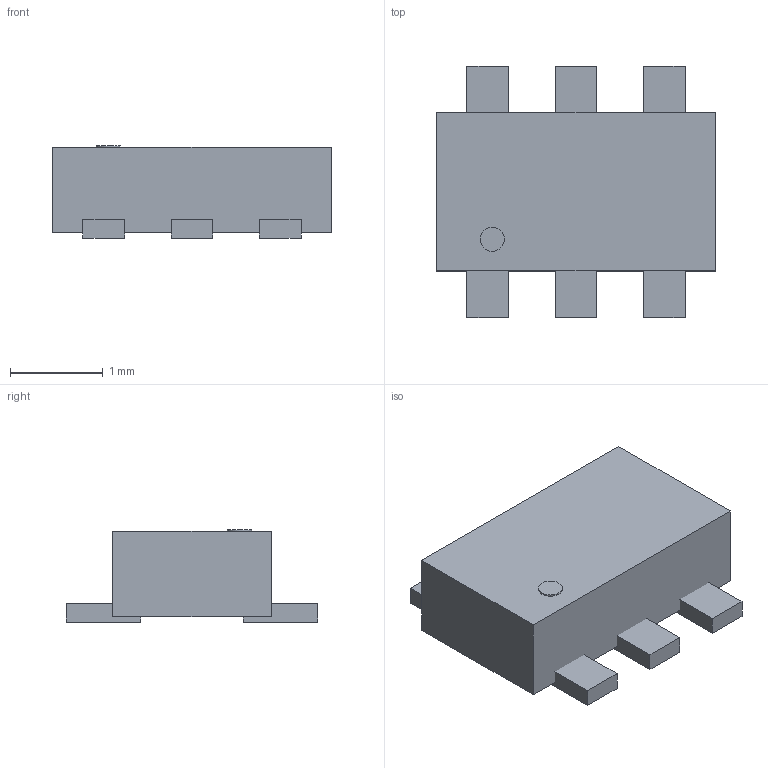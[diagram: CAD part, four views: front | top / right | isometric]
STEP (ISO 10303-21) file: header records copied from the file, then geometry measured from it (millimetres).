
FILE_DESCRIPTION(('FreeCAD Model'),'2;1');
FILE_NAME('Open CASCADE Shape Model','2026-09-23T12:07:02',('FreeCAD'),( 'FreeCAD'),'Open CASCADE STEP processor 7.8','FreeCAD','Unknown');
FILE_SCHEMA(('AUTOMOTIVE_DESIGN { 1 0 10303 214 1 1 1 1 }'));
Length unit declared in the file: millimetre
Products named in the file (1): Open CASCADE STEP translator 7.8 13
Bounding box: 3 x 2.7 x 0.99 mm (x, y, z)
Volume: 5.1 mm3; surface area: 26.2 mm2
Topology: 8 solids, 8 shells, 76 faces, 180 edges, 120 vertices
Faces by surface type: plane 76
Entity records: 2140 total; most frequent: CARTESIAN_POINT 377, ORIENTED_EDGE 360, DIRECTION 334, EDGE_CURVE 180, LINE 180, VECTOR 180, VERTEX_POINT 120, AXIS2_PLACEMENT_3D 77
